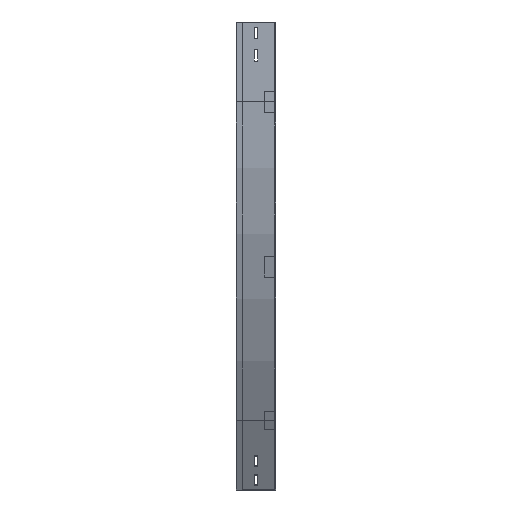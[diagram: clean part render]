
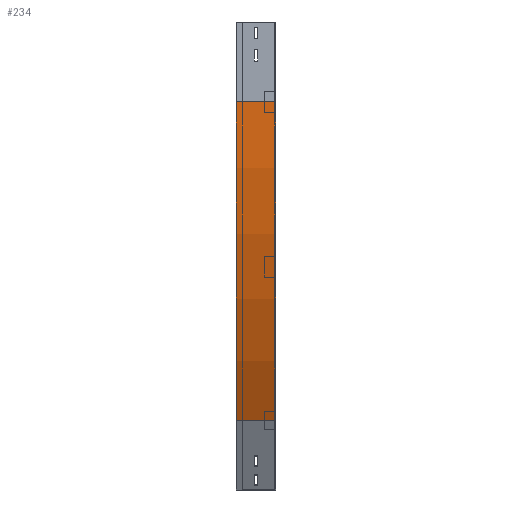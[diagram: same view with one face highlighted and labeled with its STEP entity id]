
A CAD part, left-side view. The second image highlights one B-rep face of the part: STEP entity #234.
In plain terms, the highlighted cylindrical face has radius 1200 mm (diameter 2400 mm), a partial arc.
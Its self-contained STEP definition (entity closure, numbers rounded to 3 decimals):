
#12 = VERTEX_POINT ( 'NONE', #2444 ) ;
#234 = ADVANCED_FACE ( 'NONE', ( #467 ), #1652, .T. ) ;
#236 = DIRECTION ( 'NONE',  ( 0., -1., 0. ) ) ;
#345 = EDGE_CURVE ( 'NONE', #3595, #2860, #2303, .T. ) ;
#467 = FACE_OUTER_BOUND ( 'NONE', #3544, .T. ) ;
#516 = DIRECTION ( 'NONE',  ( 0., -1., 0. ) ) ;
#769 = ORIENTED_EDGE ( 'NONE', *, *, #3499, .F. ) ;
#775 = DIRECTION ( 'NONE',  ( 0., 0., -1. ) ) ;
#892 = CARTESIAN_POINT ( 'NONE',  ( 0., 0., -150. ) ) ;
#1137 = AXIS2_PLACEMENT_3D ( 'NONE', #2195, #2528, #775 ) ;
#1196 = DIRECTION ( 'NONE',  ( -1., 0., 0. ) ) ;
#1432 = LINE ( 'NONE', #892, #2621 ) ;
#1445 = CIRCLE ( 'NONE', #3641, 1200. ) ;
#1519 = CARTESIAN_POINT ( 'NONE',  ( 160.77, 0., -750. ) ) ;
#1652 = CYLINDRICAL_SURFACE ( 'NONE', #1137, 1200. ) ;
#1724 = CARTESIAN_POINT ( 'NONE',  ( 160.77, 0., -750. ) ) ;
#2075 = CARTESIAN_POINT ( 'NONE',  ( 0., 0., -150. ) ) ;
#2137 = CIRCLE ( 'NONE', #2197, 1200. ) ;
#2195 = CARTESIAN_POINT ( 'NONE',  ( 1200., 0., -150. ) ) ;
#2197 = AXIS2_PLACEMENT_3D ( 'NONE', #2351, #516, #3796 ) ;
#2303 = LINE ( 'NONE', #1724, #3836 ) ;
#2315 = CARTESIAN_POINT ( 'NONE',  ( 160.77, 75., -750. ) ) ;
#2351 = CARTESIAN_POINT ( 'NONE',  ( 1200., 0., -150. ) ) ;
#2444 = CARTESIAN_POINT ( 'NONE',  ( 0., 75., -150. ) ) ;
#2528 = DIRECTION ( 'NONE',  ( 0., -1., 0. ) ) ;
#2621 = VECTOR ( 'NONE', #2919, 1000. ) ;
#2635 = DIRECTION ( 'NONE',  ( 0., -1., 0. ) ) ;
#2651 = VERTEX_POINT ( 'NONE', #2075 ) ;
#2655 = EDGE_CURVE ( 'NONE', #12, #2651, #1432, .T. ) ;
#2657 = EDGE_CURVE ( 'NONE', #12, #3595, #1445, .T. ) ;
#2860 = VERTEX_POINT ( 'NONE', #1519 ) ;
#2919 = DIRECTION ( 'NONE',  ( 0., -1., 0. ) ) ;
#2982 = ORIENTED_EDGE ( 'NONE', *, *, #2657, .T. ) ;
#3296 = CARTESIAN_POINT ( 'NONE',  ( 1200., 75., -150. ) ) ;
#3309 = ORIENTED_EDGE ( 'NONE', *, *, #345, .T. ) ;
#3499 = EDGE_CURVE ( 'NONE', #2651, #2860, #2137, .T. ) ;
#3544 = EDGE_LOOP ( 'NONE', ( #769, #3578, #2982, #3309 ) ) ;
#3578 = ORIENTED_EDGE ( 'NONE', *, *, #2655, .F. ) ;
#3595 = VERTEX_POINT ( 'NONE', #2315 ) ;
#3641 = AXIS2_PLACEMENT_3D ( 'NONE', #3296, #2635, #1196 ) ;
#3796 = DIRECTION ( 'NONE',  ( -1., 0., 0. ) ) ;
#3836 = VECTOR ( 'NONE', #236, 1000. ) ;
